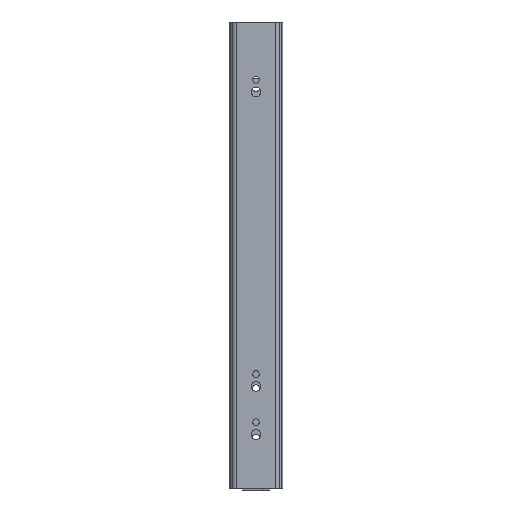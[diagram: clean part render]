
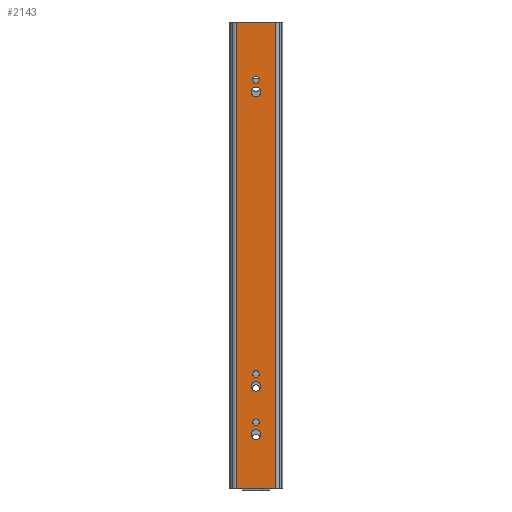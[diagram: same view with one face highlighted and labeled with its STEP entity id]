
A CAD part, left-side view. The second image highlights one B-rep face of the part: STEP entity #2143.
In plain terms, the highlighted planar face has unit normal (-1, 0, 0).
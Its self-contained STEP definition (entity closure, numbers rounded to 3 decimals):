
#29=PLANE('',#2286);
#111=LINE('',#3214,#312);
#112=LINE('',#3217,#313);
#113=LINE('',#3219,#314);
#114=LINE('',#3220,#315);
#312=VECTOR('',#2578,305.);
#313=VECTOR('',#2581,26.15);
#314=VECTOR('',#2582,26.15);
#315=VECTOR('',#2583,305.);
#492=FACE_BOUND('',#686,.T.);
#493=FACE_BOUND('',#687,.T.);
#494=FACE_BOUND('',#688,.T.);
#495=FACE_BOUND('',#689,.T.);
#496=FACE_BOUND('',#690,.T.);
#497=FACE_BOUND('',#691,.T.);
#564=FACE_OUTER_BOUND('',#685,.T.);
#685=EDGE_LOOP('',(#1529,#1530,#1531,#1532));
#686=EDGE_LOOP('',(#1533));
#687=EDGE_LOOP('',(#1534));
#688=EDGE_LOOP('',(#1535));
#689=EDGE_LOOP('',(#1536));
#690=EDGE_LOOP('',(#1537));
#691=EDGE_LOOP('',(#1538));
#833=CIRCLE('',#2244,3.15);
#835=CIRCLE('',#2247,2.25);
#837=CIRCLE('',#2250,2.25);
#839=CIRCLE('',#2253,2.25);
#841=CIRCLE('',#2256,3.15);
#843=CIRCLE('',#2259,3.15);
#937=VERTEX_POINT('',#3106);
#939=VERTEX_POINT('',#3111);
#941=VERTEX_POINT('',#3116);
#943=VERTEX_POINT('',#3121);
#945=VERTEX_POINT('',#3126);
#947=VERTEX_POINT('',#3131);
#974=VERTEX_POINT('',#3210);
#975=VERTEX_POINT('',#3212);
#976=VERTEX_POINT('',#3216);
#977=VERTEX_POINT('',#3218);
#1151=EDGE_CURVE('',#937,#937,#833,.T.);
#1153=EDGE_CURVE('',#939,#939,#835,.T.);
#1155=EDGE_CURVE('',#941,#941,#837,.T.);
#1157=EDGE_CURVE('',#943,#943,#839,.T.);
#1159=EDGE_CURVE('',#945,#945,#841,.T.);
#1161=EDGE_CURVE('',#947,#947,#843,.T.);
#1201=EDGE_CURVE('',#974,#975,#111,.T.);
#1202=EDGE_CURVE('',#976,#974,#112,.T.);
#1203=EDGE_CURVE('',#977,#975,#113,.T.);
#1204=EDGE_CURVE('',#976,#977,#114,.T.);
#1529=ORIENTED_EDGE('',*,*,#1202,.T.);
#1530=ORIENTED_EDGE('',*,*,#1201,.T.);
#1531=ORIENTED_EDGE('',*,*,#1203,.F.);
#1532=ORIENTED_EDGE('',*,*,#1204,.F.);
#1533=ORIENTED_EDGE('',*,*,#1151,.T.);
#1534=ORIENTED_EDGE('',*,*,#1153,.T.);
#1535=ORIENTED_EDGE('',*,*,#1155,.T.);
#1536=ORIENTED_EDGE('',*,*,#1157,.T.);
#1537=ORIENTED_EDGE('',*,*,#1159,.T.);
#1538=ORIENTED_EDGE('',*,*,#1161,.T.);
#2143=ADVANCED_FACE('',(#564,#492,#493,#494,#495,#496,#497),#29,.T.);
#2244=AXIS2_PLACEMENT_3D('',#3107,#2467,#2468);
#2247=AXIS2_PLACEMENT_3D('',#3112,#2473,#2474);
#2250=AXIS2_PLACEMENT_3D('',#3117,#2479,#2480);
#2253=AXIS2_PLACEMENT_3D('',#3122,#2485,#2486);
#2256=AXIS2_PLACEMENT_3D('',#3127,#2491,#2492);
#2259=AXIS2_PLACEMENT_3D('',#3132,#2497,#2498);
#2286=AXIS2_PLACEMENT_3D('',#3215,#2579,#2580);
#2467=DIRECTION('center_axis',(1.,0.,0.));
#2468=DIRECTION('ref_axis',(0.,0.,-1.));
#2473=DIRECTION('center_axis',(1.,0.,0.));
#2474=DIRECTION('ref_axis',(0.,0.,-1.));
#2479=DIRECTION('center_axis',(1.,0.,0.));
#2480=DIRECTION('ref_axis',(0.,0.,-1.));
#2485=DIRECTION('center_axis',(1.,0.,0.));
#2486=DIRECTION('ref_axis',(0.,0.,-1.));
#2491=DIRECTION('center_axis',(1.,0.,0.));
#2492=DIRECTION('ref_axis',(0.,0.,-1.));
#2497=DIRECTION('center_axis',(1.,0.,0.));
#2498=DIRECTION('ref_axis',(0.,0.,-1.));
#2578=DIRECTION('',(0.,0.,1.));
#2579=DIRECTION('center_axis',(-1.,0.,0.));
#2580=DIRECTION('ref_axis',(0.,-1.,0.));
#2581=DIRECTION('',(0.,-1.,0.));
#2582=DIRECTION('',(0.,-1.,0.));
#2583=DIRECTION('',(0.,0.,1.));
#3106=CARTESIAN_POINT('',(0.,0.,38.45));
#3107=CARTESIAN_POINT('Origin',(0.,0.,
35.3));
#3111=CARTESIAN_POINT('',(0.,0.,76.95));
#3112=CARTESIAN_POINT('Origin',(0.,0.,
74.7));
#3116=CARTESIAN_POINT('',(0.,0.,45.55));
#3117=CARTESIAN_POINT('Origin',(0.,0.,
43.3));
#3121=CARTESIAN_POINT('',(0.,0.,269.55));
#3122=CARTESIAN_POINT('Origin',(0.,0.,
267.3));
#3126=CARTESIAN_POINT('',(0.,0.,69.85));
#3127=CARTESIAN_POINT('Origin',(0.,0.,
66.7));
#3131=CARTESIAN_POINT('',(0.,0.,262.45));
#3132=CARTESIAN_POINT('Origin',(0.,0.,
259.3));
#3210=CARTESIAN_POINT('',(0.,-13.075,0.));
#3212=CARTESIAN_POINT('',(0.,-13.075,305.));
#3214=CARTESIAN_POINT('',(0.,-13.075,0.));
#3215=CARTESIAN_POINT('Origin',(0.,13.075,0.));
#3216=CARTESIAN_POINT('',(0.,13.075,0.));
#3217=CARTESIAN_POINT('',(0.,13.075,0.));
#3218=CARTESIAN_POINT('',(0.,13.075,305.));
#3219=CARTESIAN_POINT('',(0.,13.075,305.));
#3220=CARTESIAN_POINT('',(0.,13.075,0.));
